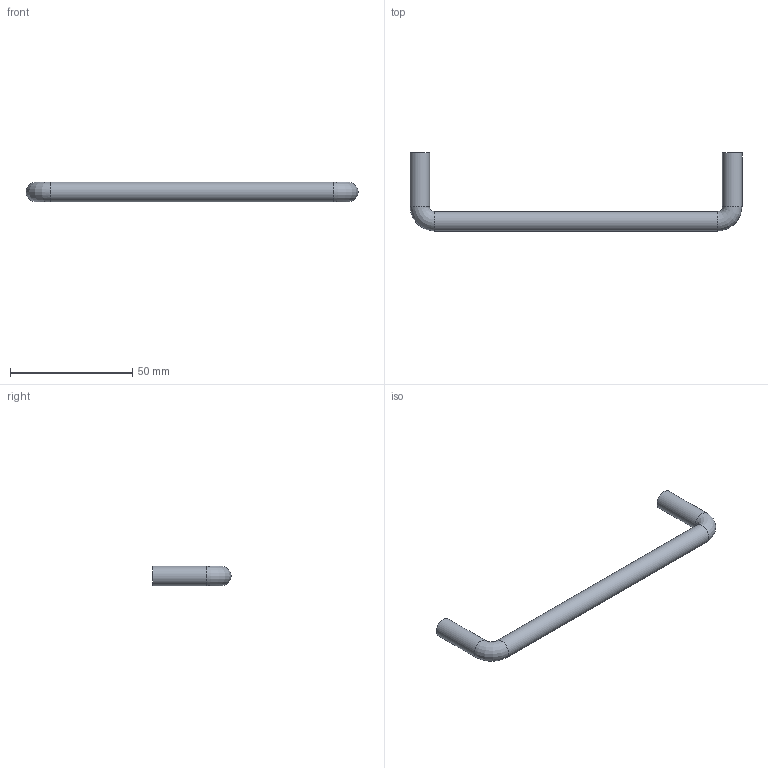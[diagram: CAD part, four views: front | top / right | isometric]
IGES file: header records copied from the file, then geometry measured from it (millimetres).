
Start section: Data from Parasolid IGES Translator 15.0.47, Copyright(c) 2006 Siemens P LM Software. All Rights Reserved.
Global section: file name: 9070078.igs; native system:  By UGS Corp.; preprocessor: XPlus GENERIC/IGES 3.0; author: Noname; organization: Noname; date: 20140122.154356; units: millimetre
Bounding box: 136 x 32 x 8 mm (x, y, z)
Surface area: 4771.4 mm2 (no closed solid volume)
Topology: 0 solids, 0 shells, 11 faces, 42 edges, 38 vertices
Faces by surface type: revolution 7, extrusion 4
